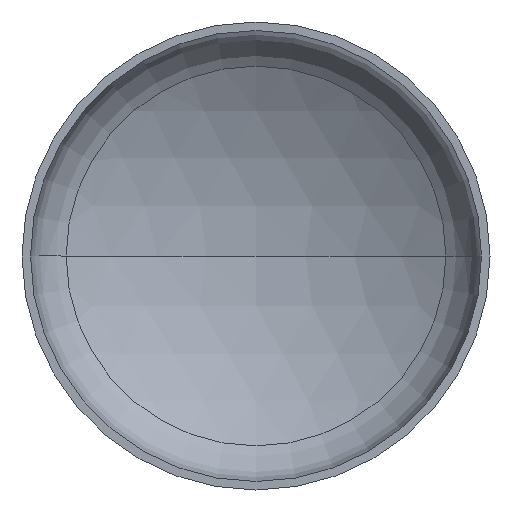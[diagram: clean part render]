
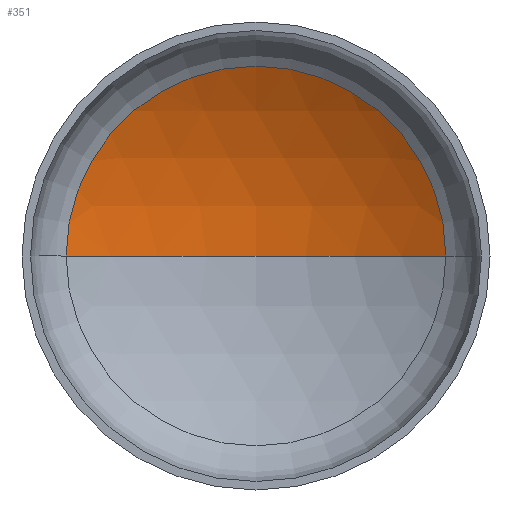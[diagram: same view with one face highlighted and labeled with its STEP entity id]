
A CAD part, front view. The second image highlights one B-rep face of the part: STEP entity #351.
In plain terms, the highlighted spherical face has radius 1760 mm.
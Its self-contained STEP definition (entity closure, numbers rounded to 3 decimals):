
#7 = CARTESIAN_POINT ( 'NONE',  ( 0., 656.072, 0. ) ) ;
#8 = DIRECTION ( 'NONE',  ( 0., -1., 0. ) ) ;
#9 = CARTESIAN_POINT ( 'NONE',  ( 0., 413.053, 0. ) ) ;
#12 = AXIS2_PLACEMENT_3D ( 'NONE', #238, #63, #125 ) ;
#27 = CARTESIAN_POINT ( 'NONE',  ( -892.394, 413.053, 0. ) ) ;
#38 = VERTEX_POINT ( 'NONE', #299 ) ;
#59 = AXIS2_PLACEMENT_3D ( 'NONE', #9, #8, #342 ) ;
#63 = DIRECTION ( 'NONE',  ( 0., 0., -1. ) ) ;
#87 = EDGE_CURVE ( 'NONE', #155, #241, #126, .T. ) ;
#108 = CARTESIAN_POINT ( 'NONE',  ( 0., -1103.928, 0. ) ) ;
#110 = DIRECTION ( 'NONE',  ( 0., 0., -1. ) ) ;
#125 = DIRECTION ( 'NONE',  ( -1., 0., 0. ) ) ;
#126 = CIRCLE ( 'NONE', #361, 1760. ) ;
#135 = EDGE_CURVE ( 'NONE', #155, #38, #284, .T. ) ;
#155 = VERTEX_POINT ( 'NONE', #7 ) ;
#160 = EDGE_CURVE ( 'NONE', #38, #241, #356, .T. ) ;
#186 = DIRECTION ( 'NONE',  ( -1., 0., 0. ) ) ;
#204 = ORIENTED_EDGE ( 'NONE', *, *, #135, .T. ) ;
#238 = CARTESIAN_POINT ( 'NONE',  ( 0., -1103.928, 0. ) ) ;
#241 = VERTEX_POINT ( 'NONE', #27 ) ;
#257 = ORIENTED_EDGE ( 'NONE', *, *, #160, .T. ) ;
#261 = DIRECTION ( 'NONE',  ( 0., 0., 1. ) ) ;
#263 = CARTESIAN_POINT ( 'NONE',  ( 0., -1103.928, 0. ) ) ;
#267 = ORIENTED_EDGE ( 'NONE', *, *, #87, .F. ) ;
#268 = DIRECTION ( 'NONE',  ( 1., 0., 0. ) ) ;
#284 = CIRCLE ( 'NONE', #386, 1760. ) ;
#299 = CARTESIAN_POINT ( 'NONE',  ( 892.394, 413.053, 0. ) ) ;
#300 = FACE_OUTER_BOUND ( 'NONE', #336, .T. ) ;
#336 = EDGE_LOOP ( 'NONE', ( #267, #204, #257 ) ) ;
#342 = DIRECTION ( 'NONE',  ( 1., 0., 0. ) ) ;
#351 = ADVANCED_FACE ( 'NONE', ( #300 ), #379, .F. ) ;
#356 = CIRCLE ( 'NONE', #59, 892.394 ) ;
#361 = AXIS2_PLACEMENT_3D ( 'NONE', #263, #261, #268 ) ;
#379 = SPHERICAL_SURFACE ( 'NONE', #12, 1760. ) ;
#386 = AXIS2_PLACEMENT_3D ( 'NONE', #108, #110, #186 ) ;
